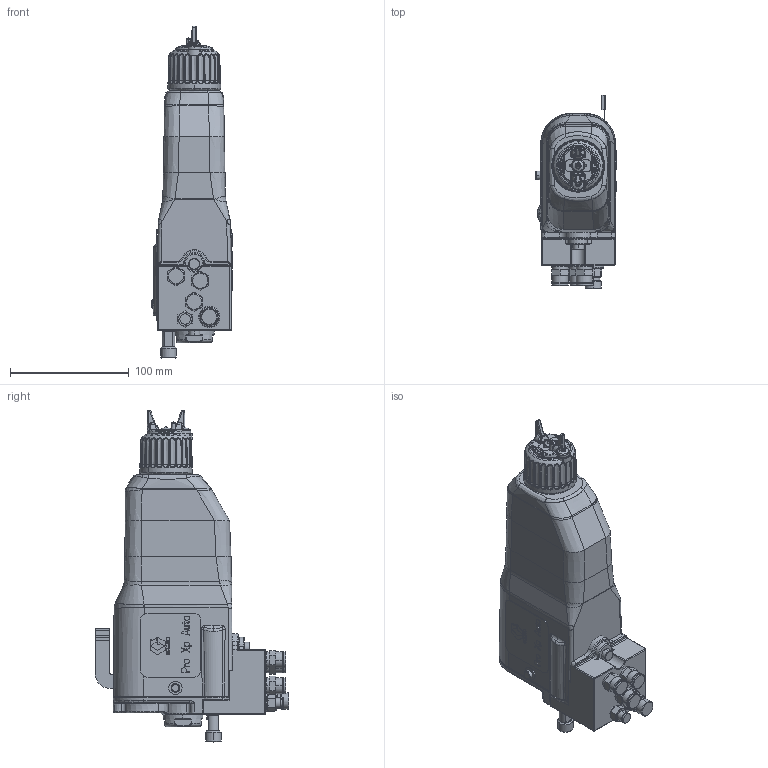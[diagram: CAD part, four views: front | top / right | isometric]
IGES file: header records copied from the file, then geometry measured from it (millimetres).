
Start section:  PTC IGES file: ha2m10-en-g.igs
Global section: file name: ha2m10-en-g.igs; native system: Creo Parametric by PTC Inc.; preprocessor: 2019030; author: qusrh3; organization: Unknown; date: 20200101.120848; units: inch
Bounding box: 67.94 x 162.79 x 279.17 mm (x, y, z)
Surface area: 105854.4 mm2 (no closed solid volume)
Topology: 0 solids, 0 shells, 1368 faces, 6759 edges, 6758 vertices
Faces by surface type: bspline 940, revolution 383, extrusion 45
